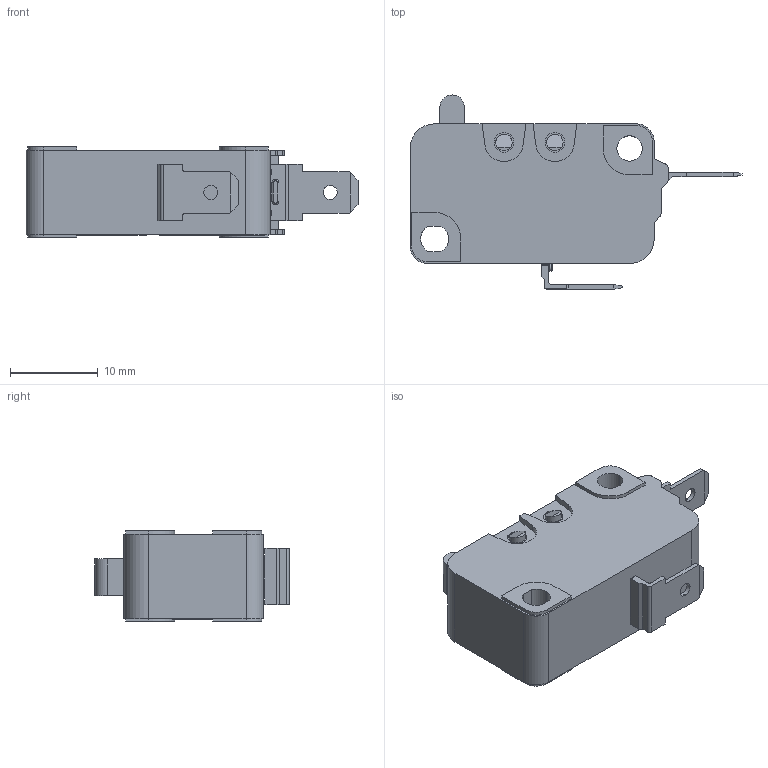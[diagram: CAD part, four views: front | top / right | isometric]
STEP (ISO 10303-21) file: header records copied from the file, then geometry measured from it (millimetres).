
FILE_DESCRIPTION (( 'STEP AP214' ), '1' );
FILE_NAME ('D3V-16G-2C25-K.STEP', '2013-02-12T07:28:15', ( 'Omron' ), ( '' ), 'SwSTEP 2.0', 'SolidWorks 2012', '' );
FILE_SCHEMA (( 'AUTOMOTIVE_DESIGN' ));
Length unit declared in the file: millimetre
Products named in the file (4): Term A3_with contact; Term C3; Case D3V K; D3V-16G-2C25-K
Assembly tree (3 placements, depth 2):
  D3V-16G-2C25-K
    Case D3V K
    Term C3
    Term A3_with contact
Bounding box: 37.8 x 22.1 x 10.3 mm (x, y, z)
Volume: 4139.3 mm3; surface area: 2331.1 mm2
Topology: 4 solids, 4 shells, 639 faces, 1711 edges, 1136 vertices
Faces by surface type: plane 393, bspline 172, cylinder 66, torus 8
Entity records: 27822 total; most frequent: CARTESIAN_POINT 12750, ORIENTED_EDGE 3422, DIRECTION 2437, EDGE_CURVE 1711, VECTOR 1211, LINE 1211, VERTEX_POINT 1136, EDGE_LOOP 703
